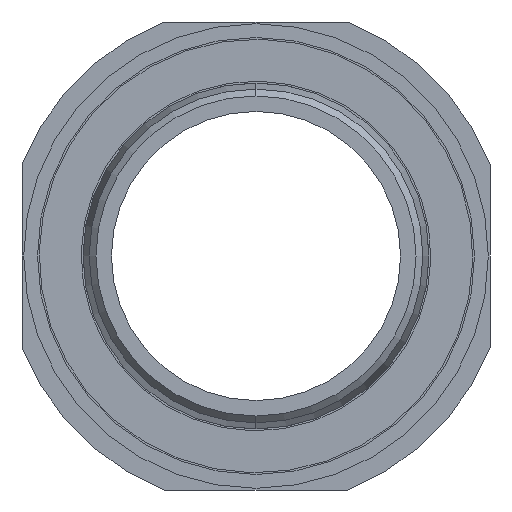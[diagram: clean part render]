
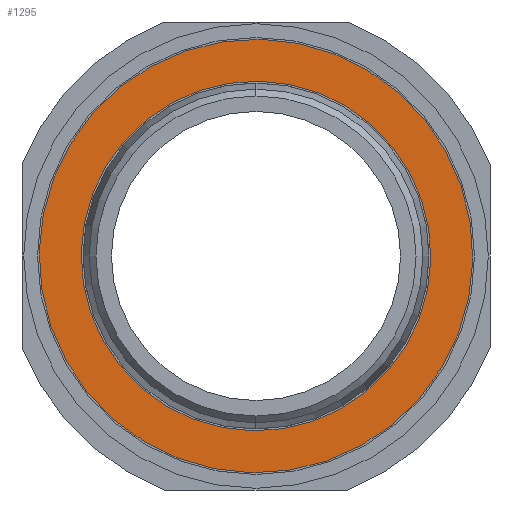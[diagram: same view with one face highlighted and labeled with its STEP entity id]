
A CAD part, left-side view. The second image highlights one B-rep face of the part: STEP entity #1295.
In plain terms, the highlighted planar face has unit normal (-1, 0, 0).
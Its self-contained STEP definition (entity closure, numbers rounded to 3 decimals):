
#350 = CARTESIAN_POINT ( 'NONE',  ( -510., 0., 0. ) ) ;
#351 = DIRECTION ( 'NONE',  ( 1., 0., 0. ) ) ;
#352 = DIRECTION ( 'NONE',  ( 0., -0.324, -0.946 ) ) ;
#360 = CARTESIAN_POINT ( 'NONE',  ( -510., 0., 0. ) ) ;
#361 = DIRECTION ( 'NONE',  ( 1., 0., 0. ) ) ;
#362 = DIRECTION ( 'NONE',  ( 0., -0.324, -0.946 ) ) ;
#370 = CARTESIAN_POINT ( 'NONE',  ( -510., 0., 0. ) ) ;
#371 = DIRECTION ( 'NONE',  ( 1., 0., 0. ) ) ;
#372 = DIRECTION ( 'NONE',  ( 0., -0.324, -0.946 ) ) ;
#373 = CARTESIAN_POINT ( 'NONE',  ( -510., 0., 0. ) ) ;
#374 = DIRECTION ( 'NONE',  ( 1., 0., 0. ) ) ;
#375 = DIRECTION ( 'NONE',  ( 0., -0.324, -0.946 ) ) ;
#423 = CARTESIAN_POINT ( 'NONE',  ( -510., 8.241, 24.026 ) ) ;
#426 = CARTESIAN_POINT ( 'NONE',  ( -510., -10.22, -29.796 ) ) ;
#427 = CARTESIAN_POINT ( 'NONE',  ( -510., 10.22, 29.796 ) ) ;
#431 = CARTESIAN_POINT ( 'NONE',  ( -510., -8.241, -24.026 ) ) ;
#663 = ORIENTED_EDGE ( 'NONE', *, *, #1752, .F. ) ;
#664 = ORIENTED_EDGE ( 'NONE', *, *, #1748, .F. ) ;
#665 = ORIENTED_EDGE ( 'NONE', *, *, #1744, .T. ) ;
#666 = ORIENTED_EDGE ( 'NONE', *, *, #1753, .T. ) ;
#976 = CIRCLE ( 'NONE', #1404, 25.4 ) ;
#980 = CIRCLE ( 'NONE', #1406, 31.5 ) ;
#987 = CIRCLE ( 'NONE', #1409, 31.5 ) ;
#988 = CIRCLE ( 'NONE', #1410, 25.4 ) ;
#1021 = PLANE ( 'NONE',  #1392 ) ;
#1028 = CARTESIAN_POINT ( 'NONE',  ( -510., 0., 0. ) ) ;
#1029 = DIRECTION ( 'NONE',  ( 1., 0., 0. ) ) ;
#1030 = DIRECTION ( 'NONE',  ( 0., -0.324, -0.946 ) ) ;
#1295 = ADVANCED_FACE ( 'NONE', ( #1476, #1480 ), #1021, .F. ) ;
#1392 = AXIS2_PLACEMENT_3D ( 'NONE', #1028, #1029, #1030 ) ;
#1404 = AXIS2_PLACEMENT_3D ( 'NONE', #350, #351, #352 ) ;
#1406 = AXIS2_PLACEMENT_3D ( 'NONE', #360, #361, #362 ) ;
#1409 = AXIS2_PLACEMENT_3D ( 'NONE', #370, #371, #372 ) ;
#1410 = AXIS2_PLACEMENT_3D ( 'NONE', #373, #374, #375 ) ;
#1476 = FACE_OUTER_BOUND ( 'NONE', #1790, .T. ) ;
#1480 = FACE_BOUND ( 'NONE', #1783, .T. ) ;
#1744 = EDGE_CURVE ( 'NONE', #1811, #1820, #976, .T. ) ;
#1748 = EDGE_CURVE ( 'NONE', #1814, #1815, #980, .T. ) ;
#1752 = EDGE_CURVE ( 'NONE', #1815, #1814, #987, .T. ) ;
#1753 = EDGE_CURVE ( 'NONE', #1820, #1811, #988, .T. ) ;
#1783 = EDGE_LOOP ( 'NONE', ( #665, #666 ) ) ;
#1790 = EDGE_LOOP ( 'NONE', ( #663, #664 ) ) ;
#1811 = VERTEX_POINT ( 'NONE', #423 ) ;
#1814 = VERTEX_POINT ( 'NONE', #426 ) ;
#1815 = VERTEX_POINT ( 'NONE', #427 ) ;
#1820 = VERTEX_POINT ( 'NONE', #431 ) ;
